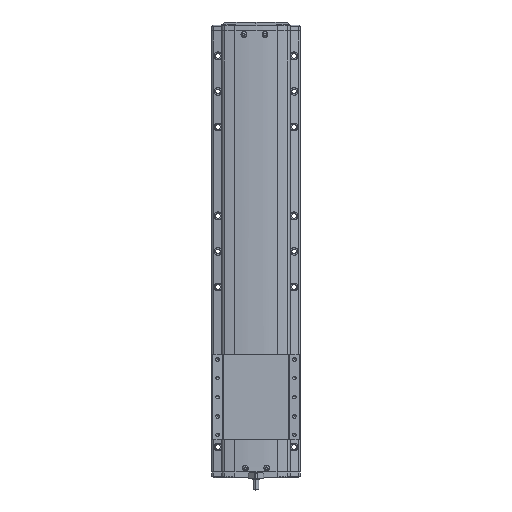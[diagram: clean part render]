
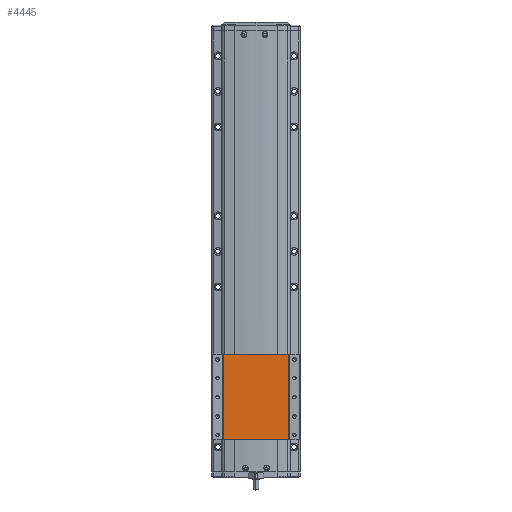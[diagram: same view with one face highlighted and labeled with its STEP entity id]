
A CAD part, top view. The second image highlights one B-rep face of the part: STEP entity #4445.
In plain terms, the highlighted planar face has unit normal (0, 0, 1).
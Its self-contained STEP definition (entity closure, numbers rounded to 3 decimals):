
#4445=ADVANCED_FACE('',(#9555),#9556,.F.);
#9555=FACE_OUTER_BOUND('',#16440,.T.);
#9556=PLANE('',#16441);
#16440=EDGE_LOOP('',(#29998,#29999,#30000,#30001));
#16441=AXIS2_PLACEMENT_3D('',#30002,#30003,#30004);
#29998=ORIENTED_EDGE('',*,*,#39852,.F.);
#29999=ORIENTED_EDGE('',*,*,#41334,.F.);
#30000=ORIENTED_EDGE('',*,*,#41335,.F.);
#30001=ORIENTED_EDGE('',*,*,#39288,.T.);
#30002=CARTESIAN_POINT('',(-300.,-132.778,36.5));
#30003=DIRECTION('',(0.,0.,-1.0));
#30004=DIRECTION('',(-1.0,0.,0.));
#39288=EDGE_CURVE('',#48313,#48310,#48314,.T.);
#39852=EDGE_CURVE('',#49132,#48310,#49134,.T.);
#41334=EDGE_CURVE('',#51073,#49132,#51074,.T.);
#41335=EDGE_CURVE('',#48313,#51073,#51075,.T.);
#48310=VERTEX_POINT('',#60958);
#48313=VERTEX_POINT('',#60961);
#48314=LINE('',#60962,#60963);
#49132=VERTEX_POINT('',#62156);
#49134=LINE('',#62158,#62159);
#51073=VERTEX_POINT('',#65071);
#51074=LINE('',#65072,#65073);
#51075=LINE('',#65074,#65075);
#60958=CARTESIAN_POINT('',(-253.624,-12.778,36.5));
#60961=CARTESIAN_POINT('',(-253.624,-132.778,36.5));
#60962=CARTESIAN_POINT('',(-253.624,-132.778,36.5));
#60963=VECTOR('',#71273,10.0);
#62156=CARTESIAN_POINT('',(-346.376,-12.778,36.5));
#62158=CARTESIAN_POINT('',(-253.624,-12.778,36.5));
#62159=VECTOR('',#71955,10.0);
#65071=CARTESIAN_POINT('',(-346.376,-132.778,36.5));
#65072=CARTESIAN_POINT('',(-346.376,-132.778,36.5));
#65073=VECTOR('',#73624,10.0);
#65074=CARTESIAN_POINT('',(-253.624,-132.778,36.5));
#65075=VECTOR('',#73625,10.0);
#71273=DIRECTION('',(0.,1.0,0.));
#71955=DIRECTION('',(1.0,0.,0.));
#73624=DIRECTION('',(0.,1.0,0.));
#73625=DIRECTION('',(-1.0,0.,0.));
